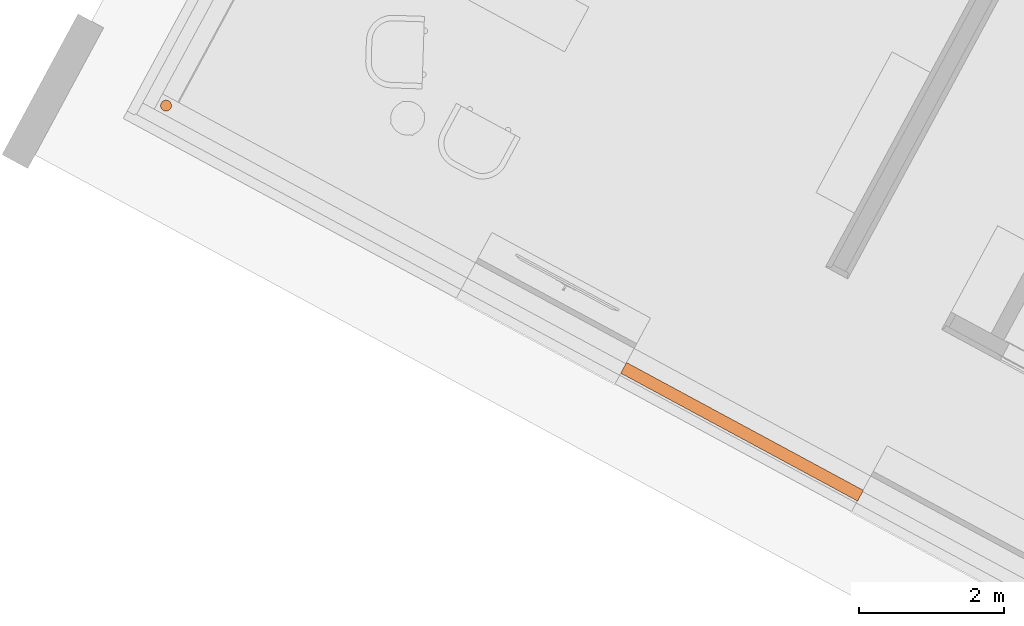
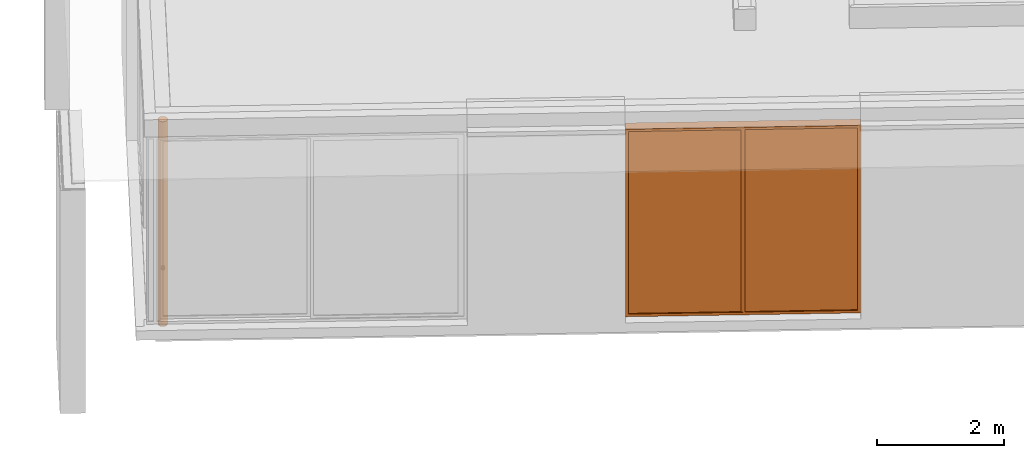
# One storey, part 43 of 52: 3 proxies.
"""IFC2X3 building model written with IfcOpenShell, lengths in metres."""

from ifc_helpers import new_model, entity, si_unit, converted_unit, derived_unit, money_unit, direction, frame, origin_with_axes, place, context, subcontext, project, spatial, faceted_brep, material, material_list, type_object, element, save


model = new_model("IFC2X3")

# Units and contexts
model_context = context("Model", 3, precision=1e-05, world=origin_with_axes(), true_north=direction((0.0, 1.0)))
body_context = subcontext(model_context, "Body", "Model", "MODEL_VIEW")
ifc_project = project(units=[si_unit("LENGTHUNIT", "METRE"), si_unit("AREAUNIT", "SQUARE_METRE"), si_unit("VOLUMEUNIT", "CUBIC_METRE"), converted_unit("PLANEANGLEUNIT", "DEGREE", entity("IfcPlaneAngleMeasure", 0.0174532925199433), si_unit("PLANEANGLEUNIT", "RADIAN"), dimensions=[0, 0, 0, 0, 0, 0, 0]), money_unit("EUR"), converted_unit("TIMEUNIT", "Year", entity("IfcTimeMeasure", 31556926.0), si_unit("TIMEUNIT", "SECOND"), dimensions=[0, 0, 1, 0, 0, 0, 0]), si_unit("MASSUNIT", "GRAM", prefix="KILO"), si_unit("THERMODYNAMICTEMPERATUREUNIT", "DEGREE_CELSIUS"), si_unit("LUMINOUSINTENSITYUNIT", "LUMEN"), si_unit("ENERGYUNIT", "JOULE", prefix="MEGA"), derived_unit("THERMALCONDUCTANCEUNIT", [(si_unit("POWERUNIT", "WATT"), 1), (si_unit("LENGTHUNIT", "METRE"), -1), (si_unit("THERMODYNAMICTEMPERATUREUNIT", "KELVIN"), -1)]), derived_unit("SPECIFICHEATCAPACITYUNIT", [(si_unit("ENERGYUNIT", "JOULE"), 1), (si_unit("MASSUNIT", "GRAM", prefix="KILO"), -1), (si_unit("THERMODYNAMICTEMPERATUREUNIT", "KELVIN"), -1)]), derived_unit("MASSDENSITYUNIT", [(si_unit("MASSUNIT", "GRAM", prefix="KILO"), 1), (si_unit("VOLUMEUNIT", "CUBIC_METRE"), -1)])], contexts=[model_context])

# Site, building, storey
site_placement = place(None, frame((-3.949935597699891, 1.740105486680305, 0.0), z_axis=(0.0, 0.0, 1.0), x_axis=(0.8799804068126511, -0.475009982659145, 0.0)))
site = spatial("IfcSite", under=ifc_project, at=site_placement, Name="Gelände", CompositionType="ELEMENT")
building_placement = place(site_placement, origin_with_axes())
building = spatial("IfcBuilding", under=site, at=building_placement, Name="Gebäude", CompositionType="ELEMENT")
storey_placement = place(building_placement, origin_with_axes())
storey = spatial("IfcBuildingStorey", under=building, at=storey_placement, Name="Erdgeschoss", CompositionType="ELEMENT", Elevation=0.0)

# Proxies
ifc_material_1 = material(Name="Glas, Normalglas-50% durchlässig")
ifc_material_2 = material(Name="Metall, Stahl lackiert")
ifc_material_3 = material(Name="Metall, Aluminium")
ifc_material_list = material_list([ifc_material_1, ifc_material_1, ifc_material_2, ifc_material_2, ifc_material_2, ifc_material_2, ifc_material_3, ifc_material_2, ifc_material_2, ifc_material_2, ifc_material_3, ifc_material_2])
building_element_proxy_type_1 = type_object("IfcBuildingElementProxyType", Name="Fassadentyp", PredefinedType="NOTDEFINED")
proxy_1_placement = place(storey_placement, frame((12.48623957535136, 0.1119999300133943, -5.810757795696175e-07), z_axis=(0.0, 0.0, 1.0), x_axis=(1.0, 0.0, 0.0)))
element("IfcBuildingElementProxy", 1, at=proxy_1_placement, inside=storey, type_object=building_element_proxy_type_1, material=ifc_material_list, Name="Fassade-006", context=body_context, shape_type="Brep", body=[
    faceted_brep([(0.926250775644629, 0.01500000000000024, 3.570000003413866), (-0.896250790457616, 0.01500000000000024, 3.570000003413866), (-0.896250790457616, -0.01499999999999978, 3.570000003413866), (0.926250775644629, -0.01499999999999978, 3.570000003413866), (0.926250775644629, 0.01500000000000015, 2.589999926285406), (0.926250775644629, 0.01500000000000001, 0.02999998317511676), (-0.896250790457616, 0.01500000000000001, 0.02999998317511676), (-0.896250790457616, 0.01500000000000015, 2.589999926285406), (-0.896250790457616, -0.01499999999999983, 2.589999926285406), (-0.896250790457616, -0.015, 0.02999998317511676), (0.926250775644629, -0.015, 0.02999998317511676), (0.926250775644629, -0.01499999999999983, 2.589999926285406)], [[[0, 1, 2, 3]], [[0, 4, 5, 6, 7, 1]], [[1, 7, 8, 2]], [[3, 2, 8, 9, 10, 11]], [[4, 0, 3, 11]], [[5, 4, 11, 10]], [[6, 5, 10, 9]], [[7, 6, 9, 8]]]),
    faceted_brep([(2.748752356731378, 0.01500000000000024, 3.570000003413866), (0.9262507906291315, 0.01500000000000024, 3.570000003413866), (0.9262507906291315, -0.01499999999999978, 3.570000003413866), (2.748752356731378, -0.01499999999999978, 3.570000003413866), (2.748752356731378, 0.01500000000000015, 2.589999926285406), (2.748752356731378, 0.01500000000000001, 0.02999998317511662), (0.9262507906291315, 0.01500000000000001, 0.02999998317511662), (0.9262507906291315, 0.01500000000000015, 2.589999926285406), (0.9262507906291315, -0.01499999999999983, 2.589999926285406), (0.9262507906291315, -0.015, 0.02999998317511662), (2.748752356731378, -0.015, 0.02999998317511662), (2.748752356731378, -0.01499999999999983, 2.589999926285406)], [[[0, 1, 2, 3]], [[0, 4, 5, 6, 7, 1]], [[1, 7, 8, 2]], [[3, 2, 8, 9, 10, 11]], [[4, 0, 3, 11]], [[5, 4, 11, 10]], [[6, 5, 10, 9]], [[7, 6, 9, 8]]]),
    faceted_brep([(0.9262507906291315, 0.01499999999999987, 3.570000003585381), (0.9262507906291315, -0.01500000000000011, 3.570000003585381), (0.9262507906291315, -0.01500000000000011, 3.550000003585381), (0.9262507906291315, -0.03500000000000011, 3.550000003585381), (0.9262507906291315, -0.03500000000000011, 3.600000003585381), (0.9262507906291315, 0.1329999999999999, 3.600000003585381), (0.9262507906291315, 0.1329999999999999, 3.550000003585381), (0.9262507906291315, 0.0149999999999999, 3.550000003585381), (2.748752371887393, 0.01499999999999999, 3.570000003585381), (2.748752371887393, -0.015, 3.570000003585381), (2.728752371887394, -0.015, 3.550000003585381), (2.728752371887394, -0.035, 3.550000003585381), (2.778752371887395, -0.035, 3.600000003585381), (2.778752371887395, 0.133, 3.600000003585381), (2.728752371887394, 0.133, 3.550000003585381), (2.728752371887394, 0.01500000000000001, 3.550000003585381)], [[[0, 1, 2, 3, 4, 5, 6, 7]], [[1, 0, 8, 9]], [[10, 2, 1, 9]], [[2, 10, 11, 3]], [[4, 3, 11, 12]], [[5, 4, 12, 13]], [[6, 5, 13, 14]], [[15, 7, 6, 14]], [[0, 7, 15, 8]], [[8, 15, 14, 13, 12, 11, 10, 9]]]),
    faceted_brep([(2.748752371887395, 0.01499999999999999, 2.589999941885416), (2.748752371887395, -0.015, 2.589999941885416), (2.728752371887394, -0.01499999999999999, 2.589999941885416), (2.728752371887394, -0.035, 2.589999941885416), (2.778752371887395, -0.035, 2.589999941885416), (2.778752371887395, 0.133, 2.589999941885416), (2.728752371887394, 0.133, 2.589999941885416), (2.728752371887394, 0.01500000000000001, 2.589999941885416), (2.748752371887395, 0.01499999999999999, 0.02999998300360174), (2.748752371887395, -0.015, 0.02999998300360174), (2.728752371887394, -0.01499999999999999, 0.04999998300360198), (2.728752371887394, -0.035, 0.04999998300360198), (2.778752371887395, -0.035, -1.699639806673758e-08), (2.778752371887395, 0.133, -1.699639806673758e-08), (2.728752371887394, 0.133, 0.04999998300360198), (2.728752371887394, 0.01500000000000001, 0.04999998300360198)], [[[0, 1, 2, 3, 4, 5, 6, 7]], [[1, 0, 8, 9]], [[10, 2, 1, 9]], [[2, 10, 11, 3]], [[4, 3, 11, 12]], [[5, 4, 12, 13]], [[6, 5, 13, 14]], [[15, 7, 6, 14]], [[0, 7, 15, 8]], [[8, 15, 14, 13, 12, 11, 10, 9]]]),
    faceted_brep([(2.748752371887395, 0.0149999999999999, 0.02999998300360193), (2.748752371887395, -0.01500000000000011, 0.02999998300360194), (2.728752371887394, -0.0150000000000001, 0.04999998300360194), (2.728752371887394, -0.03500000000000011, 0.04999998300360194), (2.778752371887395, -0.03500000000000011, -1.699639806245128e-08), (2.778752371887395, 0.1329999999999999, -1.699639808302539e-08), (2.728752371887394, 0.1329999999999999, 0.04999998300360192), (2.728752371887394, 0.0149999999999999, 0.04999998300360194), (0.9262507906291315, 0.01500000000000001, 0.02999998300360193), (0.9262507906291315, -0.015, 0.02999998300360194), (0.9262507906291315, -0.01499999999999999, 0.04999998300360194), (0.9262507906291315, -0.035, 0.04999998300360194), (0.9262507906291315, -0.035, -1.699639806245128e-08), (0.9262507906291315, 0.133, -1.699639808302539e-08), (0.9262507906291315, 0.133, 0.04999998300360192), (0.9262507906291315, 0.01500000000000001, 0.04999998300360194)], [[[0, 1, 2, 3, 4, 5, 6, 7]], [[1, 0, 8, 9]], [[10, 2, 1, 9]], [[2, 10, 11, 3]], [[12, 4, 3, 11]], [[13, 5, 4, 12]], [[14, 6, 5, 13]], [[15, 7, 6, 14]], [[0, 7, 15, 8]], [[8, 15, 14, 13, 12, 11, 10, 9]]]),
    faceted_brep([(0.9262507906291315, 0.0149999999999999, 0.02999998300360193), (0.9262507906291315, -0.01500000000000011, 0.02999998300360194), (0.9262507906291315, -0.0150000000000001, 0.04999998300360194), (0.9262507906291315, -0.03500000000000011, 0.04999998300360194), (0.9262507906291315, -0.03500000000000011, -1.699639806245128e-08), (0.9262507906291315, 0.1329999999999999, -1.699639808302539e-08), (0.9262507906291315, 0.1329999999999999, 0.04999998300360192), (0.9262507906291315, 0.0149999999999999, 0.04999998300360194), (-0.8962507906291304, 0.01500000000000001, 0.02999998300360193), (-0.8962507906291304, -0.015, 0.02999998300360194), (-0.8762507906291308, -0.01499999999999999, 0.04999998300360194), (-0.8762507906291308, -0.035, 0.04999998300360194), (-0.9262507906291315, -0.035, -1.699639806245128e-08), (-0.9262507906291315, 0.133, -1.699639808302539e-08), (-0.8762507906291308, 0.133, 0.04999998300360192), (-0.8762507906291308, 0.01500000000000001, 0.04999998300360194)], [[[0, 1, 2, 3, 4, 5, 6, 7]], [[1, 0, 8, 9]], [[10, 2, 1, 9]], [[2, 10, 11, 3]], [[4, 3, 11, 12]], [[5, 4, 12, 13]], [[6, 5, 13, 14]], [[15, 7, 6, 14]], [[0, 7, 15, 8]], [[8, 15, 14, 13, 12, 11, 10, 9]]]),
    faceted_brep([(0.8962507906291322, 0.009999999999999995, 0.04999998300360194), (0.8962507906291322, 0.009999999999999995, 2.589999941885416), (0.8962507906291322, 0.07, 2.589999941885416), (0.8962507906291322, 0.07, 0.04999998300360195), (0.9562507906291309, 0.01000000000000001, 0.04999998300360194), (0.9562507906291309, 0.01000000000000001, 2.589999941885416), (0.9562507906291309, 0.07, 2.589999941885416), (0.9562507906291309, 0.07, 0.04999998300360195)], [[[0, 1, 2, 3]], [[4, 5, 1, 0]], [[2, 1, 5, 6]], [[3, 2, 6, 7]], [[3, 7, 4, 0]], [[7, 6, 5, 4]]]),
    faceted_brep([(0.9562507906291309, -0.009999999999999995, 0.04999998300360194), (0.9562507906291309, -0.009999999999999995, 2.589999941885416), (0.9562507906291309, -0.03, 2.589999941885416), (0.9562507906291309, -0.03, 0.04999998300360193), (0.8962507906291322, -0.01000000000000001, 0.04999998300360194), (0.8962507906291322, -0.01000000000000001, 2.589999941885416), (0.8962507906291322, -0.03, 2.589999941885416), (0.8962507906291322, -0.03, 0.04999998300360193)], [[[0, 1, 2, 3]], [[4, 5, 1, 0]], [[2, 1, 5, 6]], [[3, 2, 6, 7]], [[3, 7, 4, 0]], [[7, 6, 5, 4]]]),
    faceted_brep([(2.748752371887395, 0.01499999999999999, 3.570000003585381), (2.748752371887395, -0.015, 3.570000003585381), (2.728752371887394, -0.01500000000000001, 3.550000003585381), (2.728752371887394, -0.035, 3.550000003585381), (2.778752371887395, -0.035, 3.600000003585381), (2.778752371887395, 0.133, 3.600000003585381), (2.728752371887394, 0.133, 3.550000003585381), (2.728752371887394, 0.01499999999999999, 3.550000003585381), (2.748752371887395, 0.01499999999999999, 2.589999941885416), (2.748752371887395, -0.015, 2.589999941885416), (2.728752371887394, -0.01499999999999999, 2.589999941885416), (2.728752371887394, -0.035, 2.589999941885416), (2.778752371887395, -0.035, 2.589999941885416), (2.778752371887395, 0.133, 2.589999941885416), (2.728752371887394, 0.133, 2.589999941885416), (2.728752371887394, 0.01500000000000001, 2.589999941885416)], [[[0, 1, 2, 3, 4, 5, 6, 7]], [[1, 0, 8, 9]], [[10, 2, 1, 9]], [[2, 10, 11, 3]], [[12, 4, 3, 11]], [[13, 5, 4, 12]], [[14, 6, 5, 13]], [[15, 7, 6, 14]], [[0, 7, 15, 8]], [[8, 15, 14, 13, 12, 11, 10, 9]]]),
    faceted_brep([(-0.8962507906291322, 0.01500000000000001, 3.570000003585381), (-0.8762507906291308, 0.01500000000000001, 3.550000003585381), (-0.8762507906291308, 0.133, 3.550000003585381), (-0.9262507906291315, 0.133, 3.600000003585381), (-0.9262507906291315, -0.035, 3.600000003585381), (-0.8762507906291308, -0.035, 3.550000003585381), (-0.8762507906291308, -0.01499999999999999, 3.550000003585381), (-0.8962507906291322, -0.015, 3.570000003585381), (-0.8962507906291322, 0.01500000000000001, 2.589999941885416), (-0.8762507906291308, 0.01500000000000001, 2.589999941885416), (-0.8762507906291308, 0.133, 2.589999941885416), (-0.9262507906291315, 0.133, 2.589999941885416), (-0.9262507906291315, -0.035, 2.589999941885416), (-0.8762507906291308, -0.035, 2.589999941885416), (-0.8762507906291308, -0.01499999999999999, 2.589999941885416), (-0.8962507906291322, -0.015, 2.589999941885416)], [[[0, 1, 2, 3, 4, 5, 6, 7]], [[0, 8, 9, 1]], [[9, 10, 2, 1]], [[10, 11, 3, 2]], [[11, 12, 4, 3]], [[12, 13, 5, 4]], [[6, 5, 13, 14]], [[14, 15, 7, 6]], [[7, 15, 8, 0]], [[8, 15, 14, 13, 12, 11, 10, 9]]]),
    faceted_brep([(-0.8962507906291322, 0.01500000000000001, 2.589999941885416), (-0.8762507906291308, 0.01500000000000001, 2.589999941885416), (-0.8762507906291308, 0.133, 2.589999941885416), (-0.9262507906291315, 0.133, 2.589999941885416), (-0.9262507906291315, -0.035, 2.589999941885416), (-0.8762507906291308, -0.035, 2.589999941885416), (-0.8762507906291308, -0.01499999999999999, 2.589999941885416), (-0.8962507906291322, -0.015, 2.589999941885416), (-0.8962507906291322, 0.01500000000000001, 0.02999998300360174), (-0.8762507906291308, 0.01500000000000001, 0.04999998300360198), (-0.8762507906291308, 0.133, 0.04999998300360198), (-0.9262507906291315, 0.133, -1.699639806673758e-08), (-0.9262507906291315, -0.035, -1.699639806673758e-08), (-0.8762507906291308, -0.035, 0.04999998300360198), (-0.8762507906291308, -0.01499999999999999, 0.04999998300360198), (-0.8962507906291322, -0.015, 0.02999998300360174)], [[[0, 1, 2, 3, 4, 5, 6, 7]], [[0, 8, 9, 1]], [[9, 10, 2, 1]], [[2, 10, 11, 3]], [[3, 11, 12, 4]], [[4, 12, 13, 5]], [[6, 5, 13, 14]], [[14, 15, 7, 6]], [[7, 15, 8, 0]], [[8, 15, 14, 13, 12, 11, 10, 9]]]),
    faceted_brep([(0.8962507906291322, 0.07, 2.589999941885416), (0.8962507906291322, 0.009999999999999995, 2.589999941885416), (0.8962507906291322, 0.009999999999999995, 3.550000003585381), (0.8962507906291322, 0.07, 3.550000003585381), (0.9562507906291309, 0.07, 2.589999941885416), (0.9562507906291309, 0.01000000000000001, 2.589999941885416), (0.9562507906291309, 0.01000000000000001, 3.550000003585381), (0.9562507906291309, 0.07, 3.550000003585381)], [[[0, 1, 2, 3]], [[0, 4, 5, 1]], [[1, 5, 6, 2]], [[3, 2, 6, 7]], [[4, 0, 3, 7]], [[5, 4, 7, 6]]]),
    faceted_brep([(0.9562507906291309, -0.03, 2.589999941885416), (0.9562507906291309, -0.009999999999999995, 2.589999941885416), (0.9562507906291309, -0.009999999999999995, 3.550000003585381), (0.9562507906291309, -0.03, 3.550000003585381), (0.8962507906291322, -0.03, 2.589999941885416), (0.8962507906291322, -0.01000000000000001, 2.589999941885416), (0.8962507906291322, -0.01000000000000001, 3.550000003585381), (0.8962507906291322, -0.03, 3.550000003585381)], [[[0, 1, 2, 3]], [[0, 4, 5, 1]], [[1, 5, 6, 2]], [[3, 2, 6, 7]], [[4, 0, 3, 7]], [[5, 4, 7, 6]]]),
    faceted_brep([(-0.8962507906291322, 0.01499999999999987, 3.570000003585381), (-0.8962507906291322, -0.01500000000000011, 3.570000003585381), (-0.8762507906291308, -0.01500000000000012, 3.550000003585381), (-0.8762507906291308, -0.03500000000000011, 3.550000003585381), (-0.9262507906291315, -0.03500000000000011, 3.600000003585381), (-0.9262507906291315, 0.1329999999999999, 3.600000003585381), (-0.8762507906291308, 0.1329999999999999, 3.550000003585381), (-0.8762507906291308, 0.01499999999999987, 3.550000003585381), (0.9262507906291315, 0.01499999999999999, 3.570000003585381), (0.9262507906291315, -0.015, 3.570000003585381), (0.9262507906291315, -0.01499999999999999, 3.550000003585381), (0.9262507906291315, -0.035, 3.550000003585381), (0.9262507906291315, -0.035, 3.600000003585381), (0.9262507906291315, 0.133, 3.600000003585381), (0.9262507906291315, 0.133, 3.550000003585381), (0.9262507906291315, 0.01500000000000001, 3.550000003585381)], [[[0, 1, 2, 3, 4, 5, 6, 7]], [[1, 0, 8, 9]], [[10, 2, 1, 9]], [[2, 10, 11, 3]], [[12, 4, 3, 11]], [[13, 5, 4, 12]], [[14, 6, 5, 13]], [[15, 7, 6, 14]], [[0, 7, 15, 8]], [[8, 15, 14, 13, 12, 11, 10, 9]]]),
])
ifc_material_4 = material(Name="Metall, Edelstahl")
building_element_proxy_type_2 = type_object("IfcBuildingElementProxyType", Name="Metall, Edelstahl D152", PredefinedType="NOTDEFINED")
proxy_2_placement = place(storey_placement, frame((4.302433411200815, 0.3450001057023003, -0.1499999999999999), z_axis=(0.0, 0.0, 1.0), x_axis=(1.0, 0.0, 0.0)))
element("IfcBuildingElementProxy", 2, at=proxy_2_placement, inside=storey, type_object=building_element_proxy_type_2, material=ifc_material_4, Name="Stütze-003", context=body_context, shape_type="Brep", body=[
    faceted_brep([(-0.07599999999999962, 0.0, 3.898999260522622), (-0.07599999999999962, 0.0, 0.0), (-0.07228029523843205, -0.02348529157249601, 0.0), (-0.07228029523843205, -0.02348529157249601, 3.898999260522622), (-0.07228029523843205, 0.02348529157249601, 3.898999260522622), (-0.07228029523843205, 0.02348529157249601, 0.0), (-0.06148529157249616, 0.04467167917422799, 0.0), (-0.0446716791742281, 0.06148529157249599, 0.0), (-0.0234852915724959, 0.07228029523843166, 0.0), (0.0, 0.07600000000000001, 0.0), (0.0234852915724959, 0.07228029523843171, 0.0), (0.0446716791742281, 0.06148529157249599, 0.0), (0.06148529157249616, 0.04467167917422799, 0.0), (0.07228029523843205, 0.02348529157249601, 0.0), (0.07599999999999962, 0.0, 0.0), (0.07228029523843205, -0.02348529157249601, 0.0), (0.06148529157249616, -0.04467167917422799, 0.0), (0.0446716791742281, -0.06148529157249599, 0.0), (0.0234852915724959, -0.07228029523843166, 0.0), (0.0, -0.07600000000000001, 0.0), (-0.0234852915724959, -0.07228029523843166, 0.0), (-0.0446716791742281, -0.06148529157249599, 0.0), (-0.06148529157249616, -0.04467167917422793, 0.0), (-0.06148529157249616, -0.04467167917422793, 3.898999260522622), (-0.0446716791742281, -0.06148529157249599, 3.898999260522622), (-0.0234852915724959, -0.07228029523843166, 3.898999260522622), (0.0, -0.07600000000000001, 3.898999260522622), (0.0234852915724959, -0.07228029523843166, 3.898999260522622), (0.0446716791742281, -0.06148529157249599, 3.898999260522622), (0.06148529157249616, -0.04467167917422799, 3.898999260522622), (0.07228029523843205, -0.02348529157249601, 3.898999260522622), (0.07599999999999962, 0.0, 3.898999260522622), (0.07228029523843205, 0.02348529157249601, 3.898999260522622), (0.06148529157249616, 0.04467167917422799, 3.898999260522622), (0.0446716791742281, 0.06148529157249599, 3.898999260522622), (0.0234852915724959, 0.07228029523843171, 3.898999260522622), (0.0, 0.07600000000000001, 3.898999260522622), (-0.0234852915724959, 0.07228029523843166, 3.898999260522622), (-0.0446716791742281, 0.06148529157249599, 3.898999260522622), (-0.06148529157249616, 0.04467167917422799, 3.898999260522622)], [[[0, 1, 2, 3]], [[4, 5, 1, 0]], [[2, 1, 5, 6, 7, 8, 9, 10, 11, 12, 13, 14, 15, 16, 17, 18, 19, 20, 21, 22]], [[3, 2, 22, 23]], [[4, 0, 3, 23, 24, 25, 26, 27, 28, 29, 30, 31, 32, 33, 34, 35, 36, 37, 38, 39]], [[39, 6, 5, 4]], [[38, 7, 6, 39]], [[37, 8, 7, 38]], [[36, 9, 8, 37]], [[35, 10, 9, 36]], [[34, 11, 10, 35]], [[33, 12, 11, 34]], [[32, 13, 12, 33]], [[31, 14, 13, 32]], [[30, 15, 14, 31]], [[29, 16, 15, 30]], [[28, 17, 16, 29]], [[27, 18, 17, 28]], [[26, 19, 18, 27]], [[25, 20, 19, 26]], [[24, 21, 20, 25]], [[23, 22, 21, 24]]]),
])
ifc_material_5 = material(Name="Metall, Edelstahl-Stütze")
building_element_proxy_type_3 = type_object("IfcBuildingElementProxyType", Name="Metall, Edelstahl-Stütze D152", PredefinedType="NOTDEFINED")
proxy_3_placement = place(storey_placement, frame((4.302433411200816, 0.3450001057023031, -0.1800000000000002), z_axis=(0.0, 0.0, 1.0), x_axis=(1.0, 0.0, 0.0)))
element("IfcBuildingElementProxy", 3, at=proxy_3_placement, inside=storey, type_object=building_element_proxy_type_3, material=ifc_material_5, Name="Stütze-003", context=body_context, shape_type="Brep", body=[
    faceted_brep([(-0.07599999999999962, 0.0, 3.93), (-0.07599999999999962, 0.0, 0.0), (-0.07228029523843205, -0.02348529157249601, 0.0), (-0.07228029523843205, -0.02348529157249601, 3.93), (-0.07228029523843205, 0.02348529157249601, 3.93), (-0.07228029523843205, 0.02348529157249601, 0.0), (-0.06148529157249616, 0.04467167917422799, 0.0), (-0.0446716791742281, 0.06148529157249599, 0.0), (-0.0234852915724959, 0.07228029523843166, 0.0), (0.0, 0.07600000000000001, 0.0), (0.0234852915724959, 0.07228029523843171, 0.0), (0.0446716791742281, 0.06148529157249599, 0.0), (0.06148529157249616, 0.04467167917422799, 0.0), (0.07228029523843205, 0.02348529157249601, 0.0), (0.07599999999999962, 0.0, 0.0), (0.07228029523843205, -0.02348529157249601, 0.0), (0.06148529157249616, -0.04467167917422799, 0.0), (0.0446716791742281, -0.06148529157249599, 0.0), (0.0234852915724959, -0.07228029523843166, 0.0), (0.0, -0.07600000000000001, 0.0), (-0.0234852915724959, -0.07228029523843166, 0.0), (-0.0446716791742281, -0.06148529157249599, 0.0), (-0.06148529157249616, -0.04467167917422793, 0.0), (-0.06148529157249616, -0.04467167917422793, 3.93), (-0.0446716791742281, -0.06148529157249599, 3.93), (-0.0234852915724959, -0.07228029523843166, 3.93), (0.0, -0.07600000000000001, 3.93), (0.0234852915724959, -0.07228029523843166, 3.93), (0.0446716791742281, -0.06148529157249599, 3.93), (0.06148529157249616, -0.04467167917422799, 3.93), (0.07228029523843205, -0.02348529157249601, 3.93), (0.07599999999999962, 0.0, 3.93), (0.07228029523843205, 0.02348529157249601, 3.93), (0.06148529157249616, 0.04467167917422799, 3.93), (0.0446716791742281, 0.06148529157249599, 3.93), (0.0234852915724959, 0.07228029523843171, 3.93), (0.0, 0.07600000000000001, 3.93), (-0.0234852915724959, 0.07228029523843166, 3.93), (-0.0446716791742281, 0.06148529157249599, 3.93), (-0.06148529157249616, 0.04467167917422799, 3.93)], [[[0, 1, 2, 3]], [[4, 5, 1, 0]], [[2, 1, 5, 6, 7, 8, 9, 10, 11, 12, 13, 14, 15, 16, 17, 18, 19, 20, 21, 22]], [[3, 2, 22, 23]], [[4, 0, 3, 23, 24, 25, 26, 27, 28, 29, 30, 31, 32, 33, 34, 35, 36, 37, 38, 39]], [[39, 6, 5, 4]], [[38, 7, 6, 39]], [[37, 8, 7, 38]], [[36, 9, 8, 37]], [[35, 10, 9, 36]], [[34, 11, 10, 35]], [[33, 12, 11, 34]], [[32, 13, 12, 33]], [[31, 14, 13, 32]], [[30, 15, 14, 31]], [[29, 16, 15, 30]], [[28, 17, 16, 29]], [[27, 18, 17, 28]], [[26, 19, 18, 27]], [[25, 20, 19, 26]], [[24, 21, 20, 25]], [[23, 22, 21, 24]]]),
])

save(model, "model.ifc")
